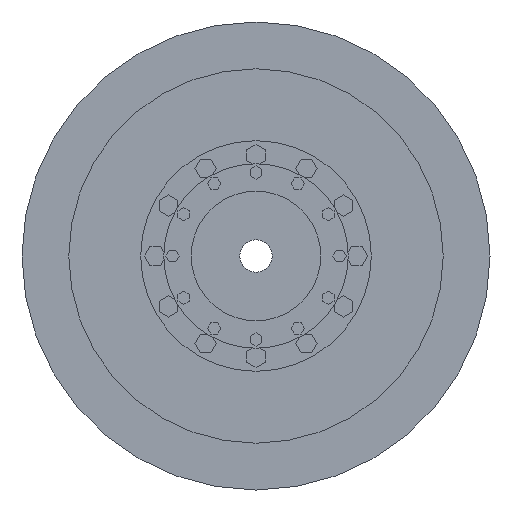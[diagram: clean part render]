
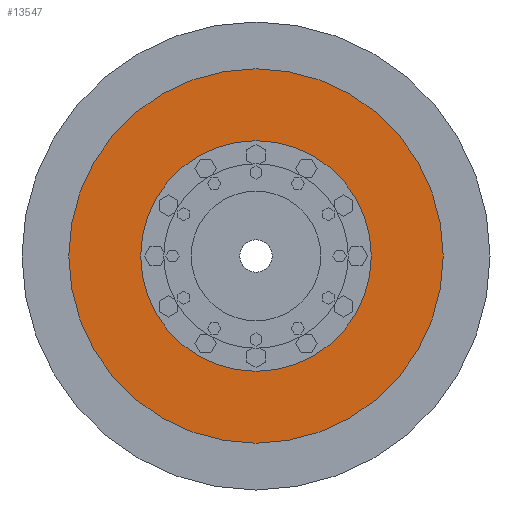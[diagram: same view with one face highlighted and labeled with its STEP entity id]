
A CAD part, left-side view. The second image highlights one B-rep face of the part: STEP entity #13547.
In plain terms, the highlighted planar face has unit normal (-1, 0, 0).
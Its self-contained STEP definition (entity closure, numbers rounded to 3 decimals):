
#13228=CARTESIAN_POINT('',(-6.5,0.,0.));
#13229=DIRECTION('',(1.,0.,0.));
#13230=DIRECTION('',(0.,1.,0.));
#13231=AXIS2_PLACEMENT_3D('',#13228,#13229,#13230);
#13241=CARTESIAN_POINT('',(-6.5,0.,0.));
#13242=DIRECTION('',(-1.,0.,0.));
#13243=DIRECTION('',(0.,1.,0.));
#13244=AXIS2_PLACEMENT_3D('',#13241,#13242,#13243);
#13330=CARTESIAN_POINT('',(-6.5,0.,0.));
#13331=DIRECTION('',(-1.,0.,0.));
#13332=DIRECTION('',(0.,1.,0.));
#13333=AXIS2_PLACEMENT_3D('',#13330,#13331,#13332);
#13335=CARTESIAN_POINT('',(-6.5,0.,0.));
#13336=DIRECTION('',(1.,0.,0.));
#13337=DIRECTION('',(0.,1.,0.));
#13338=AXIS2_PLACEMENT_3D('',#13335,#13336,#13337);
#13340=CARTESIAN_POINT('',(-6.5,74.,0.));
#13342=VERTEX_POINT('',#13340);
#13349=CARTESIAN_POINT('',(-6.5,162.4,0.));
#13351=VERTEX_POINT('',#13349);
#13352=CARTESIAN_POINT('',(-6.5,-74.,0.));
#13354=VERTEX_POINT('',#13352);
#13361=CARTESIAN_POINT('',(-6.5,-162.4,0.));
#13363=VERTEX_POINT('',#13361);
#13534=CARTESIAN_POINT('',(-6.5,0.,0.));
#13535=DIRECTION('',(1.,0.,0.));
#13536=DIRECTION('',(0.,-1.,0.));
#13537=AXIS2_PLACEMENT_3D('',#13534,#13535,#13536);
#13538=PLANE('',#13537);
#13539=ORIENTED_EDGE('',*,*,#13527,.F.);
#13540=ORIENTED_EDGE('',*,*,#13516,.T.);
#13541=EDGE_LOOP('',(#13539,#13540));
#13542=FACE_OUTER_BOUND('',#13541,.F.);
#13543=ORIENTED_EDGE('',*,*,#13379,.F.);
#13544=ORIENTED_EDGE('',*,*,#13397,.T.);
#13545=EDGE_LOOP('',(#13543,#13544));
#13546=FACE_BOUND('',#13545,.F.);
#13547=ADVANCED_FACE('',(#13542,#13546),#13538,.F.);
#13232=CIRCLE('',#13231,74.);
#13245=CIRCLE('',#13244,74.);
#13334=CIRCLE('',#13333,162.4);
#13339=CIRCLE('',#13338,162.4);
#13379=EDGE_CURVE('',#13342,#13354,#13232,.T.);
#13397=EDGE_CURVE('',#13342,#13354,#13245,.T.);
#13516=EDGE_CURVE('',#13351,#13363,#13339,.T.);
#13527=EDGE_CURVE('',#13351,#13363,#13334,.T.);
